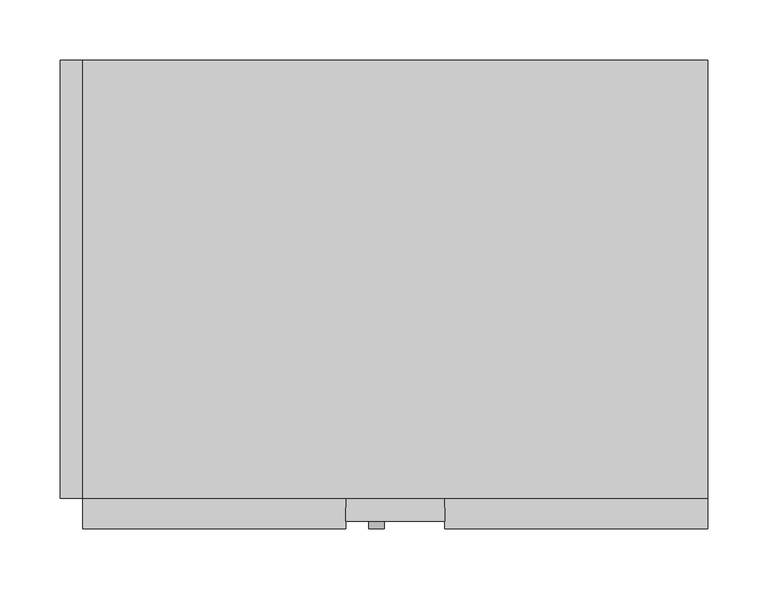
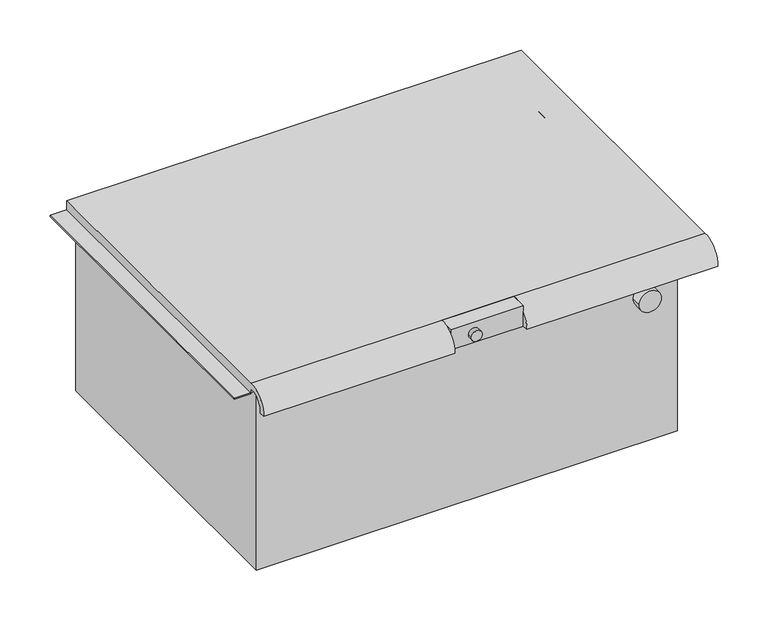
"""IFC4 building model written with IfcOpenShell, lengths in millimetres: furniture geometry."""

from ifc_helpers import new_model, si_unit, point, frame, frame_2d, origin, place, context, project, spatial, polyline, circle_curve, trimmed, segment, composite_curve, outline, extrude, faceted_brep, source, transform, mapped, element, save
from ifc_brep_helpers import plane_surface, cylinder_surface, revolved_surface, advanced_brep


def furniture_30e953a3(model_context):
    return source(origin(), model_context, "Body", "SolidModel", [
        advanced_brep(
        [(289.147512, -169.8625, 1.5875004), (289.147512, 195.2625, 1.5875004), (289.147512, 195.2625, 12.7000004), (289.147512, -169.8625, 12.7000004), (289.147512, -195.297482, -11.9114728), (289.147512, -188.9125, -11.9114728), (289.147512, -169.8625, 6.3500004), (-231.5525001, -169.8625, 1.5875004), (-231.5525001, -169.8625, 6.3500004), (-231.5525001, -188.9125, -11.9114728), (-231.5525001, -195.297482, -11.9114728), (-231.5525001, -169.8625, 12.7000004), (-231.5525001, 195.2625, 12.7000004), (-231.5525001, 195.2625, 1.5875004), (70.072506, -169.8625, 6.3500004), (70.072506, -169.8625, 12.7000004), (-12.477494, -169.8625, 12.7000004), (-12.477494, -169.8625, 6.3500004), (70.072506, -195.297482, -11.9114728), (70.072506, -188.9125, -11.9114728), (-12.477494, -188.9125, -11.9114728), (-12.477494, -195.297482, -11.9114728)],
        [
            (0, 1),
            (1, 2),
            (2, 3),
            (3, 4, circle_curve(frame((289.147512, -172.4601678, -10.0641724), z_axis=(1.0, 0.0, 0.0), x_axis=(0.0, 1.0, 0.0)), 22.9119061)),
            (4, 5),
            (5, 6, circle_curve(frame((289.147512, -172.3404634, -10.1320624), z_axis=(-1.0, 0.0, 0.0), x_axis=(0.0, 1.0, 0.0)), 16.6672942)),
            (6, 0),
            (7, 8),
            (8, 9, circle_curve(frame((-231.5525001, -172.3404634, -10.1320624), z_axis=(1.0, 0.0, 0.0), x_axis=(0.0, 1.0, 0.0)), 16.6672942)),
            (9, 10),
            (10, 11, circle_curve(frame((-231.5525001, -172.4601678, -10.0641724), z_axis=(-1.0, 0.0, 0.0), x_axis=(0.0, 1.0, 0.0)), 22.9119061)),
            (11, 12),
            (12, 13),
            (13, 7),
            (6, 14),
            (14, 15),
            (15, 16),
            (16, 17),
            (17, 8),
            (7, 0),
            (13, 1),
            (12, 2),
            (11, 16),
            (15, 3),
            (4, 18),
            (18, 19),
            (19, 5),
            (9, 20),
            (20, 21),
            (21, 10),
            (19, 14, circle_curve(frame((70.072506, -172.3404634, -10.1320624), z_axis=(-1.0, 0.0, 0.0), x_axis=(0.0, 1.0, 0.0)), 16.6672942)),
            (17, 20, circle_curve(frame((-12.477494, -172.3404634, -10.1320624), z_axis=(1.0, 0.0, 0.0), x_axis=(0.0, 1.0, 0.0)), 16.6672942)),
            (15, 18, circle_curve(frame((70.072506, -172.4601678, -10.0641724), z_axis=(1.0, 0.0, 0.0), x_axis=(0.0, 1.0, 0.0)), 22.9119061)),
            (21, 16, circle_curve(frame((-12.477494, -172.4601678, -10.0641724), z_axis=(-1.0, 0.0, 0.0), x_axis=(0.0, 1.0, 0.0)), 22.9119061)),
        ],
        [
            plane_surface(frame((289.147512, -169.8625, 1.5875004), z_axis=(1.0, 0.0, 0.0), x_axis=(0.0, 1.0, 0.0))),
            plane_surface(frame((-231.5525001, -169.8625, 1.5875004), z_axis=(-1.0, 0.0, 0.0), x_axis=(0.0, -1.0, 0.0))),
            plane_surface(frame((289.147512, -169.8625, 6.3500004), z_axis=(0.0, -1.0, 0.0), x_axis=(-1.0, 0.0, 0.0))),
            plane_surface(frame((289.147512, -169.8625, 1.5875004), z_axis=(0.0, 0.0, -1.0), x_axis=(-1.0, 0.0, 0.0))),
            plane_surface(frame((289.147512, 195.2625, 1.5875004), z_axis=(0.0, 1.0, 0.0), x_axis=(-1.0, 0.0, 0.0))),
            plane_surface(frame((289.147512, 195.2625, 12.7000004), z_axis=(0.0, 0.0, 1.0), x_axis=(-1.0, 0.0, 0.0))),
            plane_surface(frame((289.147512, -195.297482, -11.9114728), z_axis=(0.0, 0.0, -1.0), x_axis=(-1.0, 0.0, 0.0))),
            revolved_surface(polyline([(70.072506, -155.67316920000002, -10.1320624), (289.147512, -155.67316920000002, -10.1320624)]), (-231.5525001, -172.3404634, -10.1320624), (-1.0, 0.0, 0.0)),
            revolved_surface(polyline([(-231.5525001, -155.67316920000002, -10.1320624), (-12.477494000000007, -155.67316920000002, -10.1320624)]), (-231.5525001, -172.3404634, -10.1320624), (-1.0, 0.0, 0.0)),
            cylinder_surface(frame((-231.5525001, -172.4601678, -10.0641724), z_axis=(1.0, 0.0, 0.0), x_axis=(0.0, 1.0, 0.0)), 22.9119061),
            plane_surface(frame((70.072506, -195.297482, -11.9114728), z_axis=(-1.0, 0.0, 0.0), x_axis=(0.0, 1.0, 0.0))),
            plane_surface(frame((-12.477494, -195.297482, -11.9114728), z_axis=(1.0, 0.0, 0.0), x_axis=(0.0, -1.0, 0.0))),
        ],
        [
            (0, [[1, 2, 3, 4, 5, 6, 7]]),
            (1, [[8, 9, 10, 11, 12, 13, 14]]),
            (2, [[-7, 15, 16, 17, 18, 19, -8, 20]]),
            (3, [[-1, -20, -14, 21]]),
            (4, [[-2, -21, -13, 22]]),
            (5, [[-3, -22, -12, 23, -17, 24]]),
            (6, [[-5, 25, 26, 27]]),
            (6, [[-10, 28, 29, 30]]),
            (7, [[-6, -27, 31, -15]]),
            (8, [[-9, -19, 32, -28]]),
            (9, [[-4, -24, 33, -25]]),
            (9, [[-11, -30, 34, -23]]),
            (10, [[-16, -31, -26, -33]]),
            (11, [[-18, -34, -29, -32]]),
        ],
    ),
        extrude(outline(polyline([(70.072506, -188.9125), (-12.477494, -188.9125), (-12.477494, -169.8625), (70.072506, -169.8625), (70.072506, -188.9125)])), frame((0.0, 0.0, -11.9114728), z_axis=(0.0, 0.0, 1.0), x_axis=(1.0, 0.0, 0.0)), (0.0, 0.0, 1.0), 24.6114732),
        extrude(outline(composite_curve([segment(trimmed(circle_curve(frame_2d((0.0, 12.922506)), 6.35), [point((0.0, 19.272506))], [point((0.0, 6.572506))], False, "CARTESIAN"), True, "CONTINUOUS"), segment(trimmed(circle_curve(frame_2d((0.0, 12.922506)), 6.35), [point((0.0, 6.572506))], [point((0.0, 19.272506))], False, "CARTESIAN"), True, "CONTINUOUS")], self_intersect=False)), frame((0.0, -195.2625, 0.0), z_axis=(0.0, 1.0, 0.0), x_axis=(0.0, 0.0, 1.0)), (0.0, 0.0, 1.0), 25.4),
        faceted_brep([(-225.2025001, -169.8625, -215.8999996), (257.3974878, -169.8625, -215.8999996), (257.3974878, -169.8625, 12.7000004), (-225.2025001, -169.8625, 12.7000004), (-225.2025001, 188.9125, -215.8999996), (-225.2025001, 188.9125, 12.7000004), (257.3974878, 188.9125, 12.7000004), (257.3974878, 188.9125, -215.8999996), (-218.8095642, 181.9275, 12.7000004), (251.0474878, 181.9275, 12.7000004), (251.0474878, -163.5125, 12.7000004), (-218.8095642, -163.5125, 12.7000004), (251.0474878, 181.9275, -212.7249996), (-218.8095642, 181.9275, -212.7249996), (-218.8095642, -163.5125, -212.7249996), (251.0474878, -163.5125, -212.7249996)], [[[0, 1, 2, 3]], [[4, 5, 6, 7]], [[1, 0, 4, 7]], [[2, 1, 7, 6]], [[3, 2, 6, 5], [8, 9, 10, 11]], [[0, 3, 5, 4]], [[12, 13, 14, 15]], [[13, 12, 9, 8]], [[14, 13, 8, 11]], [[15, 14, 11, 10]], [[12, 15, 10, 9]]]),
        faceted_brep([(-250.6025001, 195.2625, 0.0), (-250.6025001, 195.2625, 1.5875), (-231.5525001, 195.2625, 1.5875), (-231.5525001, 195.2625, 0.0), (-250.6025001, -169.8625, 0.0), (-231.5525001, -169.8625, 0.0), (-231.5525001, -169.8625, 1.5875), (-250.6025001, -169.8625, 1.5875)], [[[0, 1, 2, 3]], [[4, 5, 6, 7]], [[1, 0, 4, 7]], [[2, 1, 7, 6]], [[3, 2, 6, 5]], [[0, 3, 5, 4]]]),
        faceted_brep([(276.4474999, 195.2625, 0.0), (263.7474999, 195.2625, 0.0), (263.7474999, 195.2625, 1.5875), (276.4474999, 195.2625, 1.5875), (276.4474999, -169.8625, 0.0), (276.4474999, -169.8625, 1.5875), (263.7474999, -169.8625, 1.5875), (263.7474999, -169.8625, 0.0)], [[[0, 1, 2, 3]], [[4, 5, 6, 7]], [[1, 0, 4, 7]], [[2, 1, 7, 6]], [[3, 2, 6, 5]], [[0, 3, 5, 4]]]),
        extrude(outline(composite_curve([segment(trimmed(circle_curve(frame_2d((-38.0999996, 219.2974999)), 12.7), [point((-38.0999996, 206.5974999))], [point((-38.0999996, 231.9974999))], False, "CARTESIAN"), True, "CONTINUOUS"), segment(trimmed(circle_curve(frame_2d((-38.0999996, 219.2974999)), 12.7), [point((-38.0999996, 231.9974999))], [point((-38.0999996, 206.5974999))], False, "CARTESIAN"), True, "CONTINUOUS")], self_intersect=False)), frame((0.0, -182.5625, 0.0), z_axis=(0.0, 1.0, 0.0), x_axis=(0.0, 0.0, 1.0)), (0.0, 0.0, 1.0), 12.7),
    ])


if __name__ == "__main__":
    model = new_model("IFC4")
    model_context = context("Model", 3, world=origin())
    ifc_project = project(units=[si_unit("LENGTHUNIT", "METRE", prefix="MILLI")], contexts=[model_context])
    site = spatial("IfcSite", under=ifc_project)
    building = spatial("IfcBuilding", under=site)
    placement = place(None, origin())
    furniture_shape = furniture_30e953a3(model_context)
    element("IfcFurniture", 1, ObjectType="HermanMiller_Carts_CT501_Drawer : 9\"H X 15\"D X 20\"W WITH STOP Key Diff", at=placement, inside=building, context=model_context, shape_type="MappedRepresentation", body=[
        mapped(furniture_shape, transform((0.0, 0.0, 0.0), x_axis=(1.0, 0.0, 0.0), y_axis=(0.0, 1.0, 0.0), z_axis=(0.0, 0.0, 1.0))),
    ])
    save(model, "model.ifc")
